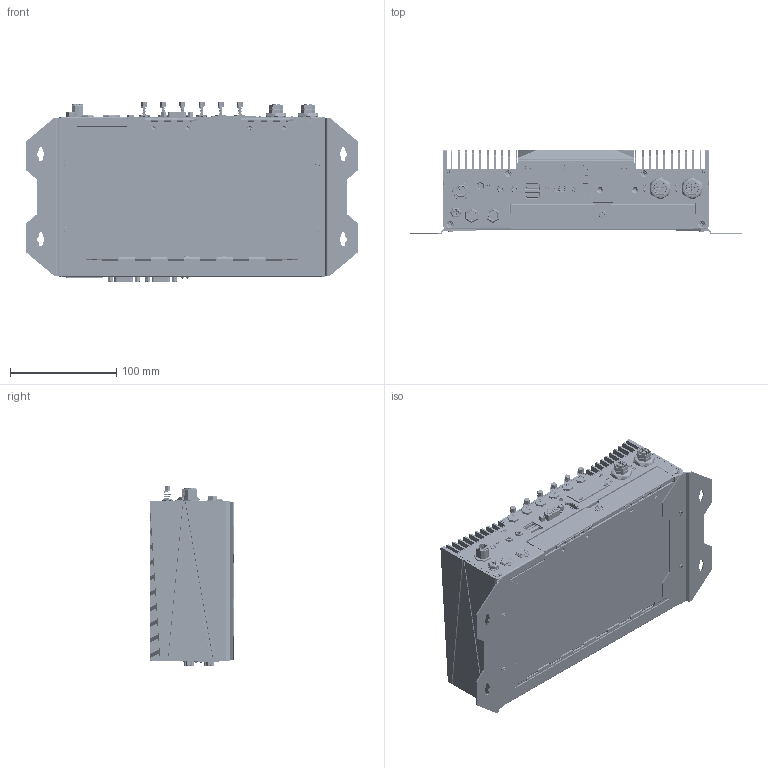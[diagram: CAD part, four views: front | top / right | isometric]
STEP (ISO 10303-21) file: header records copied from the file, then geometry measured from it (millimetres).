
FILE_DESCRIPTION((''),'2;1');
FILE_NAME('V2406C_ASM_ASM','2020-04-07T00:02:05',('VicWM_Chen'),('PTC'),'CREO PARAMETRIC BY PTC INC, 2018020','CREO PARAMETRIC BY PTC INC, 2018020','');
FILE_SCHEMA(('AUTOMOTIVE_DESIGN { 1 0 10303 214 1 1 1 1 }'));
Products named in the file (1): V2406C_ASM_ASM
Bounding box: 311.8 x 79.49 x 169.1 mm (x, y, z)
Topology: 97 solids, 220 shells, 19076 faces, 51306 edges, 32741 vertices
Faces by surface type: plane 10045, cylinder 6491, bspline 1025, cone 676, torus 576, sphere 223, extrusion 40
Full cylindrical faces by diameter (mm): 0.6 x2, 0.7 x1
Entity records: 911332 total; most frequent: CARTESIAN_POINT 266687, ORIENTED_EDGE 100467, DIRECTION 90564, EDGE_CURVE 50971, PRESENTATION_STYLE_ASSIGNMENT 43273, STYLED_ITEM 36598, VERTEX_POINT 32713, VECTOR 31862
